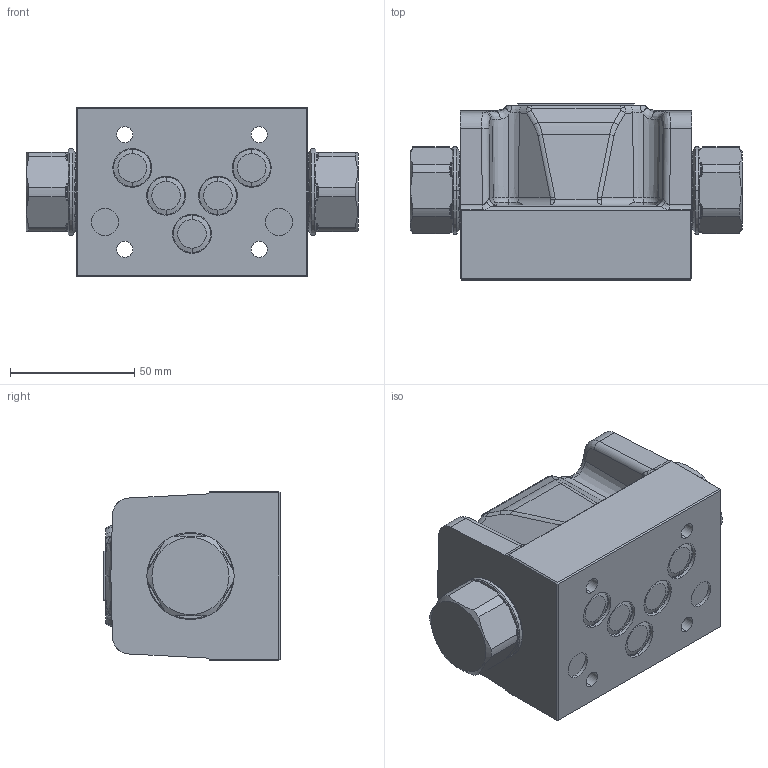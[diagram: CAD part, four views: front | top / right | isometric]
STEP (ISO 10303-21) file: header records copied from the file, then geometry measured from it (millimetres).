
FILE_DESCRIPTION (( 'STEP AP214' ), '1' );
FILE_NAME ('WFFFA10-ae.STEP', '2023-02-20T14:06:38', ( '' ), ( '' ), 'SwSTEP 2.0', 'SolidWorks 2022', '' );
FILE_SCHEMA (( 'AUTOMOTIVE_DESIGN' ));
Length unit declared in the file: millimetre
Products named in the file (1): WFFFA10-ae
Bounding box: 133.4 x 70.8 x 68 mm (x, y, z)
Volume: 393900.1 mm3; surface area: 43147.4 mm2
Topology: 1 solids, 1 shells, 511 faces, 1254 edges, 765 vertices
Faces by surface type: plane 162, cylinder 143, bspline 110, cone 49, torus 47
Entity records: 24688 total; most frequent: CARTESIAN_POINT 8114, ORIENTED_EDGE 2500, DIRECTION 2001, EDGE_CURVE 1250, VERTEX_POINT 765, AXIS2_PLACEMENT_3D 747, EDGE_LOOP 543, UNCERTAINTY_MEASURE_WITH_UNIT 514
